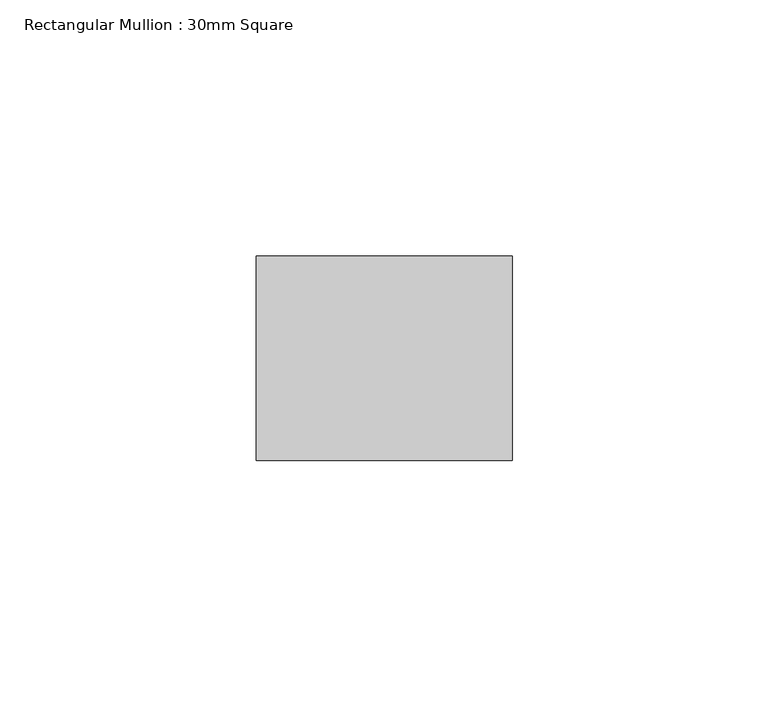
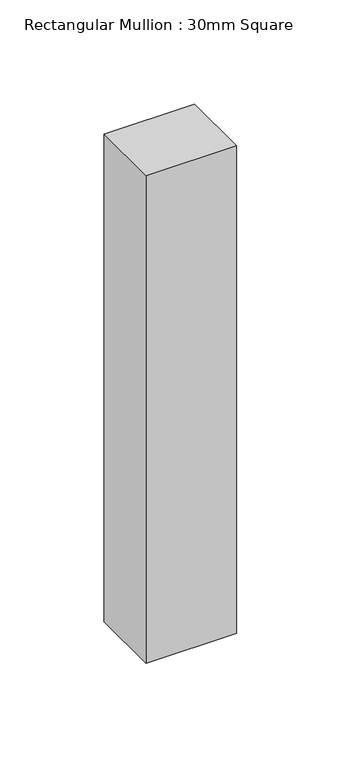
"""IFC4 building model written with IfcOpenShell, lengths in millimetres: member geometry, Rectangular Mullion : 30mm Square."""

from ifc_helpers import new_model, si_unit, frame, origin, place, context, project, spatial, polyline, outline, extrude, source, transform, mapped, element, save


def rectangular_mullion_30mm_square_8af27c46(model_context):
    return source(origin(), model_context, "Body", "SweptSolid", [
        extrude(outline(polyline([(25.0, 20.0), (25.0, -20.0), (-25.0, -20.0), (-25.0, 20.0), (25.0, 20.0)])), frame((0.0, 0.0, -285.0), z_axis=(0.0, 0.0, 1.0), x_axis=(1.0, 0.0, 0.0)), (0.0, 0.0, 1.0), 285.0),
    ])


if __name__ == "__main__":
    model = new_model("IFC4")
    model_context = context("Model", 3, world=origin())
    ifc_project = project(units=[si_unit("LENGTHUNIT", "METRE", prefix="MILLI")], contexts=[model_context])
    site = spatial("IfcSite", under=ifc_project)
    building = spatial("IfcBuilding", under=site)
    placement = place(None, origin())
    rectangular_mullion_30mm_square_shape = rectangular_mullion_30mm_square_8af27c46(model_context)
    element("IfcMember", 1, ObjectType="Rectangular Mullion : 30mm Square", at=placement, inside=building, context=model_context, shape_type="MappedRepresentation", body=[
        mapped(rectangular_mullion_30mm_square_shape, transform((0.0, 0.0, 0.0), x_axis=(1.0, 0.0, 0.0), y_axis=(0.0, 1.0, 0.0), z_axis=(0.0, 0.0, 1.0))),
    ])
    save(model, "model.ifc")
